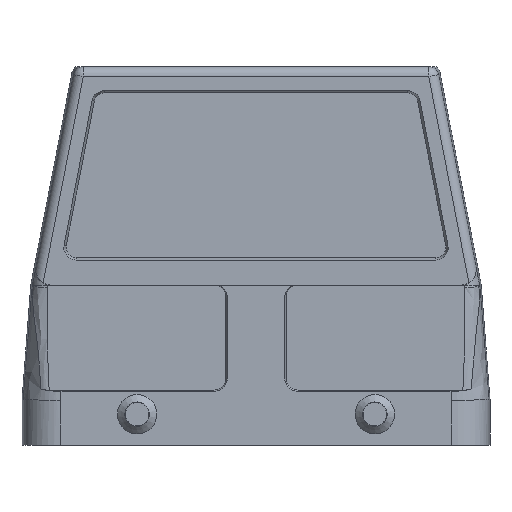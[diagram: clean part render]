
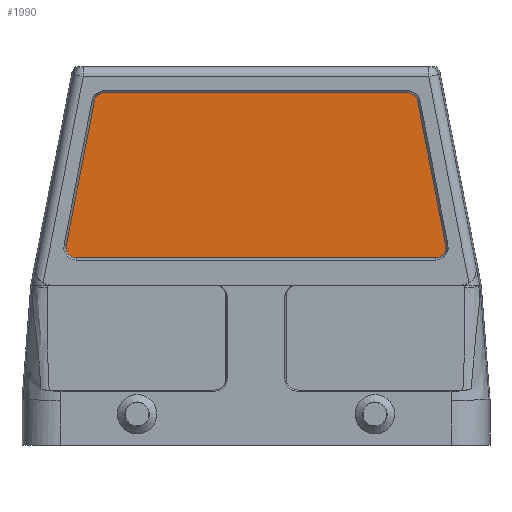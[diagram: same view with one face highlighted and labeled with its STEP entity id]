
A CAD part, front view. The second image highlights one B-rep face of the part: STEP entity #1990.
In plain terms, the highlighted planar face has unit normal (0, -1, 0).
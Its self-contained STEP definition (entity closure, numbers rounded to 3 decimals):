
#678=PLANE('',#6861);
#1006=LINE('',#9703,#1461);
#1007=LINE('',#9708,#1462);
#1008=LINE('',#9712,#1463);
#1009=LINE('',#9716,#1464);
#1461=VECTOR('',#7576,1.);
#1462=VECTOR('',#7579,1.);
#1463=VECTOR('',#7582,1.);
#1464=VECTOR('',#7585,1.);
#1990=ADVANCED_FACE('',(#2365),#678,.F.);
#2365=FACE_OUTER_BOUND('',#2703,.T.);
#2703=EDGE_LOOP('',(#3640,#3641,#3642,#3643,#3644,#3645,#3646,#3647));
#3116=CIRCLE('',#6857,2.045);
#3117=CIRCLE('',#6858,2.045);
#3118=CIRCLE('',#6859,2.045);
#3119=CIRCLE('',#6860,2.045);
#3640=ORIENTED_EDGE('',*,*,#5930,.T.);
#3641=ORIENTED_EDGE('',*,*,#5931,.T.);
#3642=ORIENTED_EDGE('',*,*,#5932,.F.);
#3643=ORIENTED_EDGE('',*,*,#5933,.F.);
#3644=ORIENTED_EDGE('',*,*,#5934,.F.);
#3645=ORIENTED_EDGE('',*,*,#5935,.T.);
#3646=ORIENTED_EDGE('',*,*,#5936,.T.);
#3647=ORIENTED_EDGE('',*,*,#5937,.T.);
#5334=VERTEX_POINT('',#9704);
#5335=VERTEX_POINT('',#9705);
#5336=VERTEX_POINT('',#9707);
#5337=VERTEX_POINT('',#9709);
#5338=VERTEX_POINT('',#9711);
#5339=VERTEX_POINT('',#9713);
#5340=VERTEX_POINT('',#9715);
#5341=VERTEX_POINT('',#9717);
#5930=EDGE_CURVE('',#5334,#5335,#1006,.T.);
#5931=EDGE_CURVE('',#5335,#5336,#3116,.T.);
#5932=EDGE_CURVE('',#5337,#5336,#1007,.T.);
#5933=EDGE_CURVE('',#5338,#5337,#3117,.T.);
#5934=EDGE_CURVE('',#5339,#5338,#1008,.T.);
#5935=EDGE_CURVE('',#5339,#5340,#3118,.T.);
#5936=EDGE_CURVE('',#5340,#5341,#1009,.T.);
#5937=EDGE_CURVE('',#5341,#5334,#3119,.T.);
#6857=AXIS2_PLACEMENT_3D('',#9706,#7577,#7578);
#6858=AXIS2_PLACEMENT_3D('',#9710,#7580,#7581);
#6859=AXIS2_PLACEMENT_3D('',#9714,#7583,#7584);
#6860=AXIS2_PLACEMENT_3D('',#9718,#7586,#7587);
#6861=AXIS2_PLACEMENT_3D('',#9719,#7588,#7589);
#7576=DIRECTION('',(-0.191,0.,0.982));
#7577=DIRECTION('',(0.,-1.,0.));
#7578=DIRECTION('',(0.,0.,1.));
#7579=DIRECTION('',(1.,0.,0.));
#7580=DIRECTION('',(0.,1.,0.));
#7581=DIRECTION('',(0.,0.,1.));
#7582=DIRECTION('',(0.191,0.,0.982));
#7583=DIRECTION('',(0.,-1.,0.));
#7584=DIRECTION('',(0.,0.,1.));
#7585=DIRECTION('',(1.,0.,0.));
#7586=DIRECTION('',(0.,-1.,0.));
#7587=DIRECTION('',(0.,0.,1.));
#7588=DIRECTION('',(0.,1.,0.));
#7589=DIRECTION('',(0.,0.,-1.));
#9703=CARTESIAN_POINT('',(37.909,-21.25,30.74));
#9704=CARTESIAN_POINT('',(37.909,-21.25,30.74));
#9705=CARTESIAN_POINT('',(32.301,-21.25,59.59));
#9706=CARTESIAN_POINT('',(30.294,-21.25,59.2));
#9707=CARTESIAN_POINT('',(30.294,-21.25,61.245));
#9708=CARTESIAN_POINT('',(30.294,-21.25,61.245));
#9709=CARTESIAN_POINT('',(-30.294,-21.25,61.245));
#9710=CARTESIAN_POINT('',(-30.294,-21.25,59.2));
#9711=CARTESIAN_POINT('',(-32.301,-21.25,59.59));
#9712=CARTESIAN_POINT('',(-30.095,-21.25,70.939));
#9713=CARTESIAN_POINT('',(-37.909,-21.25,30.74));
#9714=CARTESIAN_POINT('',(-35.902,-21.25,30.35));
#9715=CARTESIAN_POINT('',(-35.902,-21.25,28.305));
#9716=CARTESIAN_POINT('',(38.356,-21.25,28.305));
#9717=CARTESIAN_POINT('',(35.902,-21.25,28.305));
#9718=CARTESIAN_POINT('',(35.902,-21.25,30.35));
#9719=CARTESIAN_POINT('',(30.294,-21.25,59.2));
